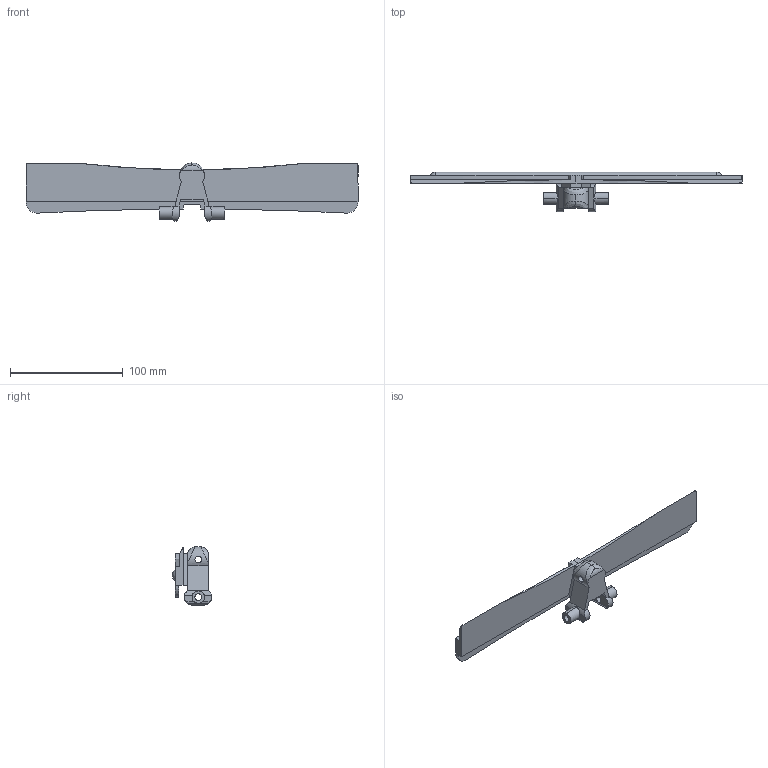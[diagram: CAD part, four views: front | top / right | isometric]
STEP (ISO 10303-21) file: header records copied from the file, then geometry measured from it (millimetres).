
FILE_DESCRIPTION (( 'STEP AP203' ), '1' );
FILE_NAME ('FBTP 3A295F.step', '2016-10-27T02:45:58', ( 'admin' ), ( '' ), 'SwSTEP 2.0', 'SolidWorks 2014', '' );
FILE_SCHEMA (( 'CONFIG_CONTROL_DESIGN' ));
Length unit declared in the file: millimetre
Products named in the file (1): FBTP 3A295F
Bounding box: 295 x 35.12 x 51.6 mm (x, y, z)
Volume: 81973.6 mm3; surface area: 34109.7 mm2
Topology: 1 solids, 1 shells, 92 faces, 274 edges, 183 vertices
Faces by surface type: plane 44, cylinder 43, bspline 3, torus 2
Entity records: 4541 total; most frequent: CARTESIAN_POINT 2090, ORIENTED_EDGE 548, DIRECTION 435, EDGE_CURVE 274, VERTEX_POINT 183, AXIS2_PLACEMENT_3D 149, LINE 137, VECTOR 137
